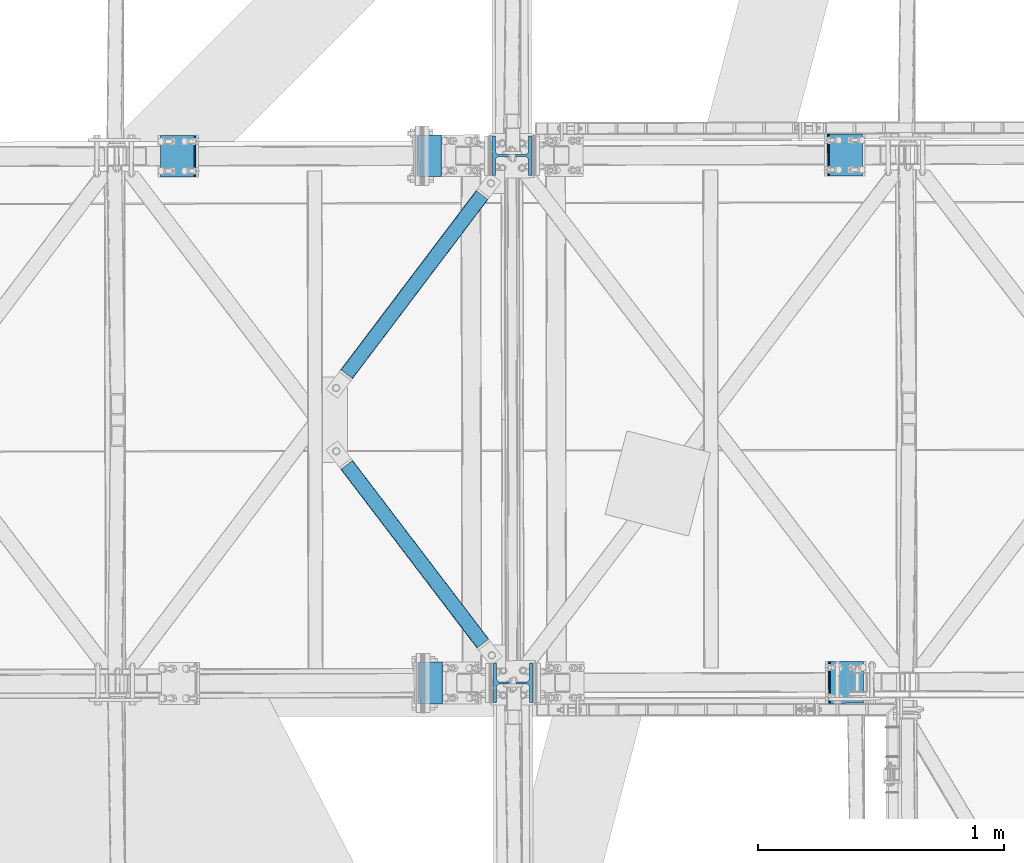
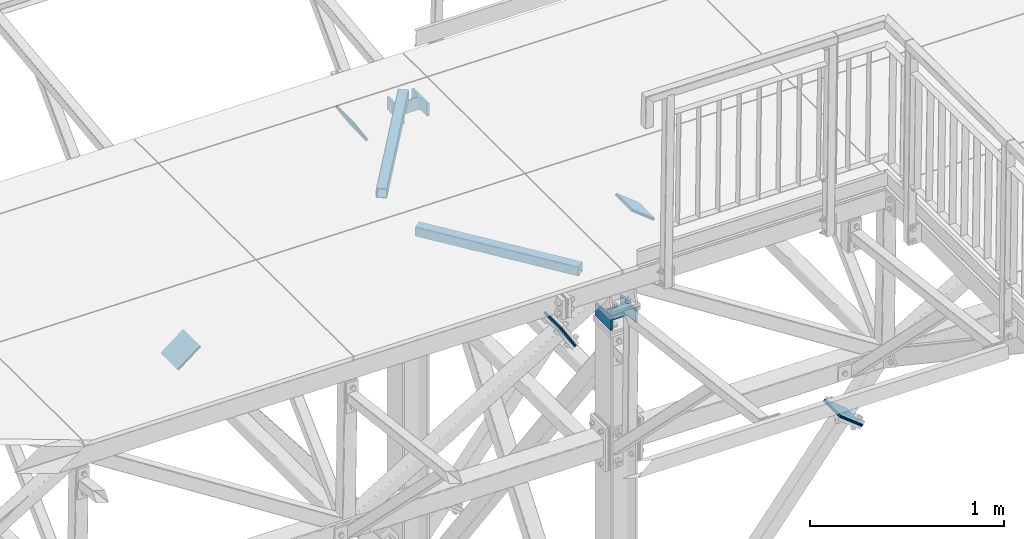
# One storey, part 23 of 169: 15 members, 4 beams, 19 elements without a shape of their own.
"""IFC2X3 building model written with IfcOpenShell, lengths in millimetres."""

from ifc_helpers import new_model, si_unit, frame, origin_with_axes, origin_2d_with_axis, place, context, subcontext, project, spatial, rectangle, hollow_rectangle, i_section, extrude, clip, halfspace, material, type_object, element, aggregate, save


model = new_model("IFC2X3")

# Units and contexts
model_context = context("Model", 3, precision=1e-05, world=origin_with_axes())
body_context = subcontext(model_context, "Body", "Model", "MODEL_VIEW")
ifc_project = project(units=[si_unit("LENGTHUNIT", "METRE", prefix="MILLI"), si_unit("AREAUNIT", "SQUARE_METRE"), si_unit("VOLUMEUNIT", "CUBIC_METRE"), si_unit("MASSUNIT", "GRAM", prefix="KILO"), si_unit("TIMEUNIT", "SECOND"), si_unit("PLANEANGLEUNIT", "RADIAN"), si_unit("SOLIDANGLEUNIT", "STERADIAN"), si_unit("THERMODYNAMICTEMPERATUREUNIT", "DEGREE_CELSIUS"), si_unit("LUMINOUSINTENSITYUNIT", "LUMEN")], contexts=[model_context])

# Site, building, storey
site_placement = place(None, origin_with_axes())
site = spatial("IfcSite", under=ifc_project, at=site_placement, Name="Undefined", CompositionType="ELEMENT")
building_placement = place(site_placement, origin_with_axes())
building = spatial("IfcBuilding", under=site, at=building_placement, Name="Undefined", CompositionType="ELEMENT")
storey_placement = place(building_placement, origin_with_axes())
storey = spatial("IfcBuildingStorey", under=building, at=storey_placement, Name="Undefined", CompositionType="ELEMENT", Elevation=0.0)

# Assembly, beam
assembly_1_placement = place(storey_placement, origin_with_axes())
assembly_1 = element("IfcElementAssembly", 1, at=assembly_1_placement, inside=storey, Name="Steel Assembly", AssemblyPlace="NOTDEFINED", PredefinedType="RIGID_FRAME")
ifc_material = material(Name="STEEL/S355")
beam_type_1 = type_object("IfcBeamType", Name="HEB160", PredefinedType="NOTDEFINED")
beam_1_placement = place(assembly_1_placement, frame((6119.29456790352, 2256.42947014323, 13715.266435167), z_axis=(-0.99999826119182, -0.00186483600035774, -1.66000011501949e-07), x_axis=(-2.54700353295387e-10, 0.0, -1.0)))
beam_1 = element("IfcBeam", 2, at=beam_1_placement, type_object=beam_type_1, material=ifc_material, Name="BEAM", ObjectType="HEB160", context=body_context, shape_type="Clipping", body=[
    clip(clip(extrude(i_section(OverallWidth=160.0, OverallDepth=160.0, WebThickness=8.0, FlangeThickness=13.0, FilletRadius=15.0, at=origin_2d_with_axis()), frame((95.0011325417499, 0.0, 9.09494704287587e-13), z_axis=(-1.0, -3.46944695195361e-18, -1.38777878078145e-17), x_axis=(1.73472347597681e-18, -1.0, 0.0)), (0.0, 0.0, 1.0), 79.5), halfspace(frame((93.4053736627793, 3.68412156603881e-05, -999.986758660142), z_axis=(-0.999998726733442, 4.91325828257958e-06, 0.00159577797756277), x_axis=(4.91325177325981e-06, 0.99999999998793, -7.99932058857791e-09)), True)), halfspace(frame((15.4999840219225, -6.46195985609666e-10, -999.999999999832), z_axis=(1.0, 0.0, 0.0), x_axis=(1.73472347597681e-18, -1.0, 0.0)), True)),
])
aggregate(assembly_1, [beam_1])

assembly_2_placement = place(storey_placement, origin_with_axes())
assembly_2 = element("IfcElementAssembly", 3, at=assembly_2_placement, inside=storey, Name="Steel Assembly", AssemblyPlace="NOTDEFINED", PredefinedType="RIGID_FRAME")
beam_2_placement = place(assembly_2_placement, frame((6123.28521033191, 116.433191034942, 13715.2556411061), z_axis=(-0.99999826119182, -0.00186483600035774, -1.66000011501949e-07), x_axis=(-2.54700353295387e-10, 0.0, -1.0)))
beam_2 = element("IfcBeam", 4, at=beam_2_placement, type_object=beam_type_1, material=ifc_material, Name="BEAM", ObjectType="HEB160", context=body_context, shape_type="Clipping", body=[
    clip(clip(extrude(i_section(OverallWidth=160.0, OverallDepth=160.0, WebThickness=8.0, FlangeThickness=13.0, FilletRadius=15.0, at=origin_2d_with_axis()), frame((95.0011325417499, 0.0, 9.09494704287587e-13), z_axis=(-1.0, -3.46944695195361e-18, -1.38777878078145e-17), x_axis=(1.73472347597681e-18, -1.0, 0.0)), (0.0, 0.0, 1.0), 79.5), halfspace(frame((93.4053736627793, 3.68412156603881e-05, -999.986758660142), z_axis=(-0.999998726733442, 4.91325828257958e-06, 0.00159577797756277), x_axis=(4.91325177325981e-06, 0.99999999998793, -7.99932058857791e-09)), True)), halfspace(frame((15.4999840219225, -6.46195985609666e-10, -999.999999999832), z_axis=(1.0, 0.0, 0.0), x_axis=(1.73472347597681e-18, -1.0, 0.0)), True)),
])
aggregate(assembly_2, [beam_2])

# Assembly, member
assembly_3_placement = place(storey_placement, origin_with_axes())
assembly_3 = element("IfcElementAssembly", 5, at=assembly_3_placement, inside=storey, Name="Steel Assembly", AssemblyPlace="NOTDEFINED", PredefinedType="RIGID_FRAME")
member_type = type_object("IfcMemberType", Name="BL5*170", PredefinedType="NOTDEFINED")
member_1_placement = place(assembly_3_placement, frame((7543.90340858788, 119.082416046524, 12504.2866674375), z_axis=(-0.0018648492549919, 0.999998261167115, -4.2996762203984e-08), x_axis=(-0.784458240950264, -0.00146288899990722, 0.620179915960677)))
member_1 = element("IfcMember", 6, at=member_1_placement, type_object=member_type, material=ifc_material, Name="BLACHA", ObjectType="BL5*170", context=body_context, shape_type="SweptSolid", body=[
    extrude(rectangle(XDim=5.0, YDim=170.0, at=origin_2d_with_axis()), frame((169.999999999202, 0.0, -3.62691994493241e-12), z_axis=(-1.0, -3.46944695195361e-18, -1.38777878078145e-17), x_axis=(1.73472347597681e-18, -1.0, 0.0)), (0.0, 0.0, 1.0), 170.0),
])
aggregate(assembly_3, [member_1])

assembly_4_placement = place(storey_placement, origin_with_axes())
assembly_4 = element("IfcElementAssembly", 7, at=assembly_4_placement, inside=storey, Name="Steel Assembly", AssemblyPlace="NOTDEFINED", PredefinedType="RIGID_FRAME")
member_2_placement = place(assembly_4_placement, frame((7539.91265953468, 2259.07869502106, 12504.286667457), z_axis=(-0.0018648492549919, 0.999998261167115, -4.2996762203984e-08), x_axis=(-0.784458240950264, -0.00146288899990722, 0.620179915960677)))
member_2 = element("IfcMember", 8, at=member_2_placement, type_object=member_type, material=ifc_material, Name="BLACHA", ObjectType="BL5*170", context=body_context, shape_type="SweptSolid", body=[
    extrude(rectangle(XDim=5.0, YDim=170.0, at=origin_2d_with_axis()), frame((169.999999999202, 0.0, -3.62691994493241e-12), z_axis=(-1.0, -3.46944695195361e-18, -1.38777878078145e-17), x_axis=(1.73472347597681e-18, -1.0, 0.0)), (0.0, 0.0, 1.0), 170.0),
])
aggregate(assembly_4, [member_2])

assembly_5_placement = place(storey_placement, origin_with_axes())
assembly_5 = element("IfcElementAssembly", 9, at=assembly_5_placement, inside=storey, Name="Steel Assembly", AssemblyPlace="NOTDEFINED", PredefinedType="RIGID_FRAME")
member_3_placement = place(assembly_5_placement, frame((4829.6182646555, 2254.02440313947, 12658.8004660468), z_axis=(-0.0018648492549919, 0.999998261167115, -4.2996762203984e-08), x_axis=(-0.792353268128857, -0.00147761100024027, -0.610060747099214)))
member_3 = element("IfcMember", 10, at=member_3_placement, type_object=member_type, material=ifc_material, Name="BLACHA", ObjectType="BL5*170", context=body_context, shape_type="SweptSolid", body=[
    extrude(rectangle(XDim=5.0, YDim=170.0, at=origin_2d_with_axis()), frame((169.999999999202, 0.0, -3.62691994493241e-12), z_axis=(-1.0, -3.46944695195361e-18, -1.38777878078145e-17), x_axis=(1.73472347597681e-18, -1.0, 0.0)), (0.0, 0.0, 1.0), 170.0),
])
aggregate(assembly_5, [member_3])

assembly_6_placement = place(storey_placement, origin_with_axes())
assembly_6 = element("IfcElementAssembly", 11, at=assembly_6_placement, inside=storey, Name="Steel Assembly", AssemblyPlace="NOTDEFINED", PredefinedType="RIGID_FRAME")
member_4_placement = place(assembly_6_placement, frame((5734.528830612, 2255.71201301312, 13742.5990812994), z_axis=(-0.0018648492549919, 0.999998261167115, -4.2996762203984e-08), x_axis=(0.518820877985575, 0.000967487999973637, -0.854882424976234)))
member_4 = element("IfcMember", 12, at=member_4_placement, type_object=member_type, material=ifc_material, Name="BLACHA", ObjectType="BL5*170", context=body_context, shape_type="SweptSolid", body=[
    extrude(rectangle(XDim=5.0, YDim=170.0, at=origin_2d_with_axis()), frame((169.999999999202, 0.0, -3.62691994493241e-12), z_axis=(-1.0, -3.46944695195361e-18, -1.38777878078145e-17), x_axis=(1.73472347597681e-18, -1.0, 0.0)), (0.0, 0.0, 1.0), 170.0),
])
aggregate(assembly_6, [member_4])

assembly_7_placement = place(storey_placement, origin_with_axes())
assembly_7 = element("IfcElementAssembly", 13, at=assembly_7_placement, inside=storey, Name="Steel Assembly", AssemblyPlace="NOTDEFINED", PredefinedType="RIGID_FRAME")
member_5_placement = place(assembly_7_placement, frame((5738.51960871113, 115.715629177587, 13742.5991737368), z_axis=(-0.0018648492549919, 0.999998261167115, -4.2996762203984e-08), x_axis=(0.518820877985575, 0.000967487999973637, -0.854882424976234)))
member_5 = element("IfcMember", 14, at=member_5_placement, type_object=member_type, material=ifc_material, Name="BLACHA", ObjectType="BL5*170", context=body_context, shape_type="SweptSolid", body=[
    extrude(rectangle(XDim=5.0, YDim=170.0, at=origin_2d_with_axis()), frame((169.999999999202, 0.0, -3.62691994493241e-12), z_axis=(-1.0, -3.46944695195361e-18, -1.38777878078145e-17), x_axis=(1.73472347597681e-18, -1.0, 0.0)), (0.0, 0.0, 1.0), 170.0),
])
aggregate(assembly_7, [member_5])

assembly_8_placement = place(storey_placement, origin_with_axes())
assembly_8 = element("IfcElementAssembly", 15, at=assembly_8_placement, inside=storey, Name="Steel Assembly", AssemblyPlace="NOTDEFINED", PredefinedType="RIGID_FRAME")
member_6_placement = place(assembly_8_placement, frame((5738.80323530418, 2255.71998425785, 13745.1931901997), z_axis=(-0.0018648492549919, 0.999998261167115, -4.2996762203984e-08), x_axis=(0.518820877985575, 0.000967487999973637, -0.854882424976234)))
member_6 = element("IfcMember", 16, at=member_6_placement, type_object=member_type, material=ifc_material, Name="BLACHA", ObjectType="BL5*170", context=body_context, shape_type="SweptSolid", body=[
    extrude(rectangle(XDim=5.0, YDim=170.0, at=origin_2d_with_axis()), frame((169.999999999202, 0.0, -3.62691994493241e-12), z_axis=(-1.0, -3.46944695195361e-18, -1.38777878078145e-17), x_axis=(1.73472347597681e-18, -1.0, 0.0)), (0.0, 0.0, 1.0), 170.0),
])
aggregate(assembly_8, [member_6])

assembly_9_placement = place(storey_placement, origin_with_axes())
assembly_9 = element("IfcElementAssembly", 17, at=assembly_9_placement, inside=storey, Name="Steel Assembly", AssemblyPlace="NOTDEFINED", PredefinedType="RIGID_FRAME")
member_7_placement = place(assembly_9_placement, frame((5743.07763999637, 2255.72795550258, 13747.7872991), z_axis=(-0.0018648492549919, 0.999998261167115, -4.2996762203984e-08), x_axis=(0.518820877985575, 0.000967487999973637, -0.854882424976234)))
member_7 = element("IfcMember", 18, at=member_7_placement, type_object=member_type, material=ifc_material, Name="BLACHA", ObjectType="BL5*170", context=body_context, shape_type="SweptSolid", body=[
    extrude(rectangle(XDim=5.0, YDim=170.0, at=origin_2d_with_axis()), frame((169.999999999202, 0.0, -3.62691994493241e-12), z_axis=(-1.0, -3.46944695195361e-18, -1.38777878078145e-17), x_axis=(1.73472347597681e-18, -1.0, 0.0)), (0.0, 0.0, 1.0), 170.0),
])
aggregate(assembly_9, [member_7])

assembly_10_placement = place(storey_placement, origin_with_axes())
assembly_10 = element("IfcElementAssembly", 19, at=assembly_10_placement, inside=storey, Name="Steel Assembly", AssemblyPlace="NOTDEFINED", PredefinedType="RIGID_FRAME")
member_8_placement = place(assembly_10_placement, frame((5742.79401340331, 115.723600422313, 13745.1932826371), z_axis=(-0.0018648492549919, 0.999998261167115, -4.2996762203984e-08), x_axis=(0.518820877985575, 0.000967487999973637, -0.854882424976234)))
member_8 = element("IfcMember", 20, at=member_8_placement, type_object=member_type, material=ifc_material, Name="BLACHA", ObjectType="BL5*170", context=body_context, shape_type="SweptSolid", body=[
    extrude(rectangle(XDim=5.0, YDim=170.0, at=origin_2d_with_axis()), frame((169.999999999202, 0.0, -3.62691994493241e-12), z_axis=(-1.0, -3.46944695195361e-18, -1.38777878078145e-17), x_axis=(1.73472347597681e-18, -1.0, 0.0)), (0.0, 0.0, 1.0), 170.0),
])
aggregate(assembly_10, [member_8])

assembly_11_placement = place(storey_placement, origin_with_axes())
assembly_11 = element("IfcElementAssembly", 21, at=assembly_11_placement, inside=storey, Name="Steel Assembly", AssemblyPlace="NOTDEFINED", PredefinedType="RIGID_FRAME")
member_9_placement = place(assembly_11_placement, frame((5747.0684180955, 115.731571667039, 13747.7873915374), z_axis=(-0.0018648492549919, 0.999998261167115, -4.2996762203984e-08), x_axis=(0.518820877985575, 0.000967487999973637, -0.854882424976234)))
member_9 = element("IfcMember", 22, at=member_9_placement, type_object=member_type, material=ifc_material, Name="BLACHA", ObjectType="BL5*170", context=body_context, shape_type="SweptSolid", body=[
    extrude(rectangle(XDim=5.0, YDim=170.0, at=origin_2d_with_axis()), frame((169.999999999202, 0.0, -3.62691994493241e-12), z_axis=(-1.0, -3.46944695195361e-18, -1.38777878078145e-17), x_axis=(1.73472347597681e-18, -1.0, 0.0)), (0.0, 0.0, 1.0), 170.0),
])
aggregate(assembly_11, [member_9])

assembly_12_placement = place(storey_placement, origin_with_axes())
assembly_12 = element("IfcElementAssembly", 23, at=assembly_12_placement, inside=storey, Name="Steel Assembly", AssemblyPlace="NOTDEFINED", PredefinedType="RIGID_FRAME")
member_10_placement = place(assembly_12_placement, frame((7536.81176534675, 2259.07291235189, 12500.3643694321), z_axis=(-0.0018648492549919, 0.999998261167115, -4.2996762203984e-08), x_axis=(-0.784458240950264, -0.00146288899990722, 0.620179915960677)))
member_10 = element("IfcMember", 24, at=member_10_placement, type_object=member_type, material=ifc_material, Name="BLACHA", ObjectType="BL5*170", context=body_context, shape_type="SweptSolid", body=[
    extrude(rectangle(XDim=5.0, YDim=170.0, at=origin_2d_with_axis()), frame((169.999999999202, 0.0, -3.62691994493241e-12), z_axis=(-1.0, -3.46944695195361e-18, -1.38777878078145e-17), x_axis=(1.73472347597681e-18, -1.0, 0.0)), (0.0, 0.0, 1.0), 170.0),
])
aggregate(assembly_12, [member_10])

assembly_13_placement = place(storey_placement, origin_with_axes())
assembly_13 = element("IfcElementAssembly", 25, at=assembly_13_placement, inside=storey, Name="Steel Assembly", AssemblyPlace="NOTDEFINED", PredefinedType="RIGID_FRAME")
member_11_placement = place(assembly_13_placement, frame((7533.71087115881, 2259.06712968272, 12496.4420714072), z_axis=(-0.0018648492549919, 0.999998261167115, -4.2996762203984e-08), x_axis=(-0.784458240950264, -0.00146288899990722, 0.620179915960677)))
member_11 = element("IfcMember", 26, at=member_11_placement, type_object=member_type, material=ifc_material, Name="BLACHA", ObjectType="BL5*170", context=body_context, shape_type="SweptSolid", body=[
    extrude(rectangle(XDim=5.0, YDim=170.0, at=origin_2d_with_axis()), frame((169.999999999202, 0.0, -3.62691994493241e-12), z_axis=(-1.0, -3.46944695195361e-18, -1.38777878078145e-17), x_axis=(1.73472347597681e-18, -1.0, 0.0)), (0.0, 0.0, 1.0), 170.0),
])
aggregate(assembly_13, [member_11])

assembly_14_placement = place(storey_placement, origin_with_axes())
assembly_14 = element("IfcElementAssembly", 27, at=assembly_14_placement, inside=storey, Name="Steel Assembly", AssemblyPlace="NOTDEFINED", PredefinedType="RIGID_FRAME")
member_12_placement = place(assembly_14_placement, frame((7540.80251439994, 119.076633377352, 12500.3643694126), z_axis=(-0.0018648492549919, 0.999998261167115, -4.2996762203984e-08), x_axis=(-0.784458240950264, -0.00146288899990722, 0.620179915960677)))
member_12 = element("IfcMember", 28, at=member_12_placement, type_object=member_type, material=ifc_material, Name="BLACHA", ObjectType="BL5*170", context=body_context, shape_type="SweptSolid", body=[
    extrude(rectangle(XDim=5.0, YDim=170.0, at=origin_2d_with_axis()), frame((169.999999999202, 0.0, -3.62691994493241e-12), z_axis=(-1.0, -3.46944695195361e-18, -1.38777878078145e-17), x_axis=(1.73472347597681e-18, -1.0, 0.0)), (0.0, 0.0, 1.0), 170.0),
])
aggregate(assembly_14, [member_12])

assembly_15_placement = place(storey_placement, origin_with_axes())
assembly_15 = element("IfcElementAssembly", 29, at=assembly_15_placement, inside=storey, Name="Steel Assembly", AssemblyPlace="NOTDEFINED", PredefinedType="RIGID_FRAME")
member_13_placement = place(assembly_15_placement, frame((7537.701620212, 119.07085070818, 12496.4420713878), z_axis=(-0.0018648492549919, 0.999998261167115, -4.2996762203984e-08), x_axis=(-0.784458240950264, -0.00146288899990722, 0.620179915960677)))
member_13 = element("IfcMember", 30, at=member_13_placement, type_object=member_type, material=ifc_material, Name="BLACHA", ObjectType="BL5*170", context=body_context, shape_type="SweptSolid", body=[
    extrude(rectangle(XDim=5.0, YDim=170.0, at=origin_2d_with_axis()), frame((169.999999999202, 0.0, -3.62691994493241e-12), z_axis=(-1.0, -3.46944695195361e-18, -1.38777878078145e-17), x_axis=(1.73472347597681e-18, -1.0, 0.0)), (0.0, 0.0, 1.0), 170.0),
])
aggregate(assembly_15, [member_13])

assembly_16_placement = place(storey_placement, origin_with_axes())
assembly_16 = element("IfcElementAssembly", 31, at=assembly_16_placement, inside=storey, Name="Steel Assembly", AssemblyPlace="NOTDEFINED", PredefinedType="RIGID_FRAME")
member_14_placement = place(assembly_16_placement, frame((4832.66856308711, 2254.03009145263, 12654.8386928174), z_axis=(-0.0018648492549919, 0.999998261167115, -4.2996762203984e-08), x_axis=(-0.792353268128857, -0.00147761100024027, -0.610060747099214)))
member_14 = element("IfcMember", 32, at=member_14_placement, type_object=member_type, material=ifc_material, Name="BLACHA", ObjectType="BL5*170", context=body_context, shape_type="SweptSolid", body=[
    extrude(rectangle(XDim=5.0, YDim=170.0, at=origin_2d_with_axis()), frame((169.999999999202, 0.0, -3.62691994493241e-12), z_axis=(-1.0, -3.46944695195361e-18, -1.38777878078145e-17), x_axis=(1.73472347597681e-18, -1.0, 0.0)), (0.0, 0.0, 1.0), 170.0),
])
aggregate(assembly_16, [member_14])

assembly_17_placement = place(storey_placement, origin_with_axes())
assembly_17 = element("IfcElementAssembly", 33, at=assembly_17_placement, inside=storey, Name="Steel Assembly", AssemblyPlace="NOTDEFINED", PredefinedType="RIGID_FRAME")
member_15_placement = place(assembly_17_placement, frame((4835.71886151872, 2254.0357797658, 12650.876919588), z_axis=(-0.0018648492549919, 0.999998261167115, -4.2996762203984e-08), x_axis=(-0.792353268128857, -0.00147761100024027, -0.610060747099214)))
member_15 = element("IfcMember", 34, at=member_15_placement, type_object=member_type, material=ifc_material, Name="BLACHA", ObjectType="BL5*170", context=body_context, shape_type="SweptSolid", body=[
    extrude(rectangle(XDim=5.0, YDim=170.0, at=origin_2d_with_axis()), frame((169.999999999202, 0.0, -3.62691994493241e-12), z_axis=(-1.0, -3.46944695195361e-18, -1.38777878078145e-17), x_axis=(1.73472347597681e-18, -1.0, 0.0)), (0.0, 0.0, 1.0), 170.0),
])
aggregate(assembly_17, [member_15])

# Assembly, beam
assembly_18_placement = place(storey_placement, origin_with_axes())
assembly_18 = element("IfcElementAssembly", 35, at=assembly_18_placement, inside=storey, Name="Steel Assembly", AssemblyPlace="NOTDEFINED", PredefinedType="RIGID_FRAME")
beam_type_2 = type_object("IfcBeamType", Name="K60/4", PredefinedType="NOTDEFINED")
beam_3_placement = place(assembly_18_placement, frame((5320.14706817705, 1199.93742351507, 13886.6053508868), z_axis=(-0.012713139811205, -2.37511238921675e-05, -0.999919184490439), x_axis=(0.603048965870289, 0.797667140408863, -0.00768621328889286)))
beam_3 = element("IfcBeam", 36, at=beam_3_placement, type_object=beam_type_2, material=ifc_material, Name="BEAM", ObjectType="K60/4", context=body_context, shape_type="Clipping", body=[
    clip(clip(extrude(hollow_rectangle(XDim=60.0, YDim=60.0, WallThickness=4.0, InnerFilletRadius=4.0, OuterFilletRadius=8.0, at=origin_2d_with_axis()), frame((1123.82600619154, -8.02809272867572e-14, 0.0), z_axis=(-1.0, -3.46944695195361e-18, -1.38777878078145e-17), x_axis=(1.73472347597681e-18, -1.0, 0.0)), (0.0, 0.0, 1.0), 911.55), halfspace(frame((1123.82600618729, 1.24773578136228e-08, 14.9999999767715), z_axis=(-1.0, -3.46944695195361e-18, -1.38777878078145e-17), x_axis=(1.73472347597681e-18, -1.0, 0.0)), True)), halfspace(frame((212.273739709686, 3.36649463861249e-09, 15.0000001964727), z_axis=(1.0, 0.0, 0.0), x_axis=(0.0, 1.0, 0.0)), True)),
])
aggregate(assembly_18, [beam_3])

assembly_19_placement = place(storey_placement, origin_with_axes())
assembly_19 = element("IfcElementAssembly", 37, at=assembly_19_placement, inside=storey, Name="Steel Assembly", AssemblyPlace="NOTDEFINED", PredefinedType="RIGID_FRAME")
beam_4_placement = place(assembly_19_placement, frame((5320.20301372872, 1169.93747560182, 13886.6053521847), z_axis=(-0.012713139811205, -2.37511238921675e-05, -0.999919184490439), x_axis=(0.606019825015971, -0.795412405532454, -0.00768614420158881)))
beam_4 = element("IfcBeam", 38, at=beam_4_placement, type_object=beam_type_2, material=ifc_material, Name="BEAM", ObjectType="K60/4", context=body_context, shape_type="Clipping", body=[
    clip(clip(extrude(hollow_rectangle(XDim=60.0, YDim=60.0, WallThickness=4.0, InnerFilletRadius=4.0, OuterFilletRadius=8.0, at=origin_2d_with_axis()), frame((1123.82626165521, 1.68938768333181e-13, 3.63992833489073e-12), z_axis=(-1.0, -3.46944695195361e-18, -1.38777878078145e-17), x_axis=(1.73472347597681e-18, -1.0, 0.0)), (0.0, 0.0, 1.0), 911.55), halfspace(frame((1123.82626165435, -4.22915036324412e-10, 5.0000000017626), z_axis=(-1.0, -3.46944695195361e-18, -1.38777878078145e-17), x_axis=(1.73472347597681e-18, -1.0, 0.0)), True)), halfspace(frame((212.273739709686, 3.36649463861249e-09, 15.0000001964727), z_axis=(1.0, 0.0, 0.0), x_axis=(0.0, 1.0, 0.0)), True)),
])
aggregate(assembly_19, [beam_4])

save(model, "model.ifc")
